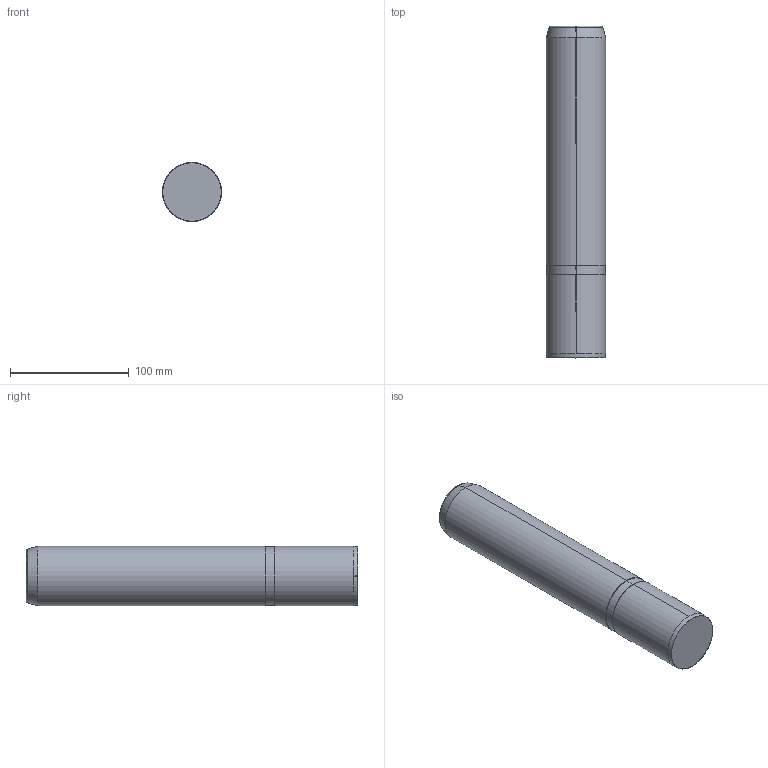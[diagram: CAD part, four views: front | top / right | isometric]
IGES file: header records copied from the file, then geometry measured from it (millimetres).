
Start section: SolidWorks IGES file using analytic representation for surfaces
Global section: file name: C:\Users\Dell\Desktop\deltakont\hatalýlar\D13.02\Ø50\D13.02_50280.igs; native system: SolidWorks 2010; preprocessor: SolidWorks 2010; author: Dell; date: 111225.191111; units: millimetre
Bounding box: 50 x 280 x 50 mm (x, y, z)
Surface area: 47488.6 mm2 (no closed solid volume)
Topology: 0 solids, 0 shells, 16 faces, 428 edges, 428 vertices
Faces by surface type: revolution 10, bspline 6
